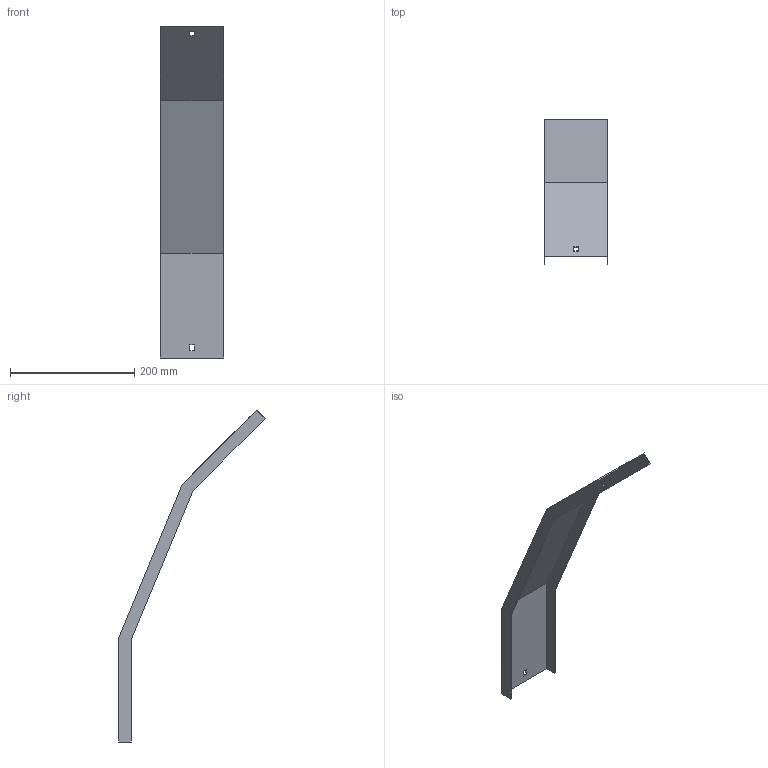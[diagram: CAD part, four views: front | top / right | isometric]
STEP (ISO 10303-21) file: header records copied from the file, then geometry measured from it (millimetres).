
FILE_DESCRIPTION (( 'STEP AP214' ), '1' );
FILE_NAME ('A2_34N3C100.step', '2025-02-21T10:34:08', ( '' ), ( '' ), 'SwSTEP 2.0', 'SolidWorks 2023', '' );
FILE_SCHEMA (( 'AUTOMOTIVE_DESIGN' ));
Length unit declared in the file: millimetre
Products named in the file (1): A2_34N3C100
Bounding box: 103 x 235.79 x 535.1 mm (x, y, z)
Volume: 126289.3 mm3; surface area: 170667.6 mm2
Topology: 1 solids, 1 shells, 26 faces, 72 edges, 48 vertices
Faces by surface type: plane 26
Entity records: 847 total; most frequent: CARTESIAN_POINT 147, ORIENTED_EDGE 144, DIRECTION 126, LINE 72, EDGE_CURVE 72, VECTOR 72, VERTEX_POINT 48, EDGE_LOOP 30
